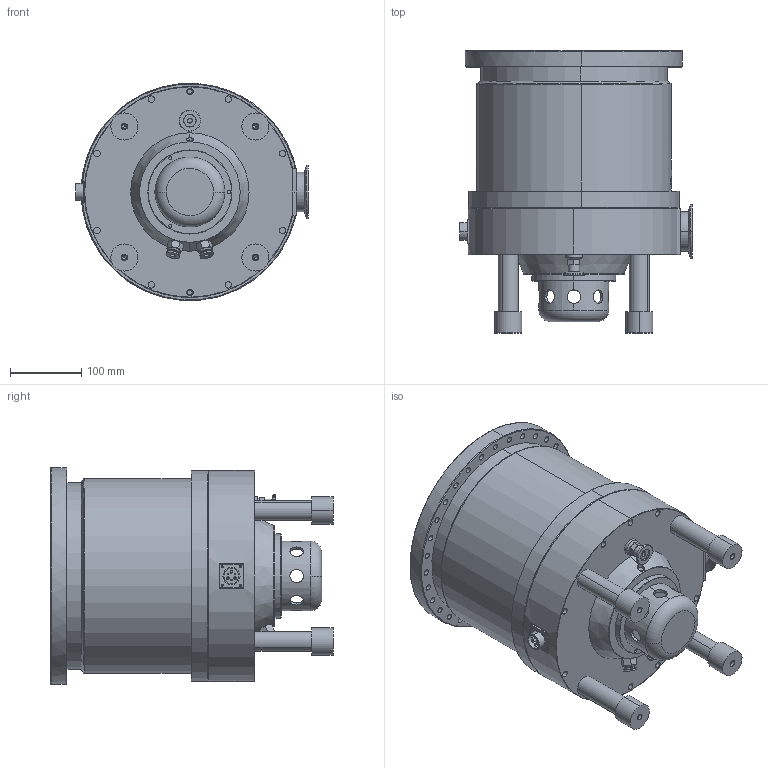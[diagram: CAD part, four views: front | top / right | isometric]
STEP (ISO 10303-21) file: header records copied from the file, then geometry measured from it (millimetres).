
FILE_DESCRIPTION (( 'STEP AP203' ), '1' );
FILE_NAME ('CF1600D-00W.STEP', '2025-03-29T08:03:32', ( 'User' ), ( 'China' ), 'SwSTEP 2.0', 'SolidWorks 2016', '' );
FILE_SCHEMA (( 'CONFIG_CONTROL_DESIGN' ));
Length unit declared in the file: millimetre
Products named in the file (13): 萇埭諉芛; JTFB1600D-18-00W; JTFB1600D-18-01-00W; JTFB1600D-18-01-01｣ﾗ; JTFB1600-17; JTFB1600-03_1; JTFB1600-01W; SJJTB-07-00H; SJJTB-07-01A; CF1600D-00W; 150323-KF16; 阨郲; 1600掙虯蝶杶
Assembly tree (19 placements, depth 4):
  CF1600D-00W
    SJJTB-07-00H
      SJJTB-07-01A
    JTFB1600-01W
    JTFB1600-03_1
    JTFB1600-17  x4
    JTFB1600D-18-00W
      JTFB1600D-18-01-00W
        JTFB1600D-18-01-01｣ﾗ
    萇埭諉芛
    1600掙虯蝶杶  x4
    阨郲  x2
    150323-KF16
Bounding box: 326.82 x 395.72 x 304.16 mm (x, y, z)
Volume: 19290126 mm3; surface area: 801698 mm2
Topology: 16 solids, 16 shells, 856 faces, 2135 edges, 1364 vertices
Faces by surface type: cylinder 361, plane 203, bspline 141, cone 129, torus 22
Entity records: 49880 total; most frequent: CARTESIAN_POINT 31137, ORIENTED_EDGE 3686, DIRECTION 3298, EDGE_CURVE 1843, AXIS2_PLACEMENT_3D 1378, VERTEX_POINT 1198, EDGE_LOOP 951, CIRCLE 752
